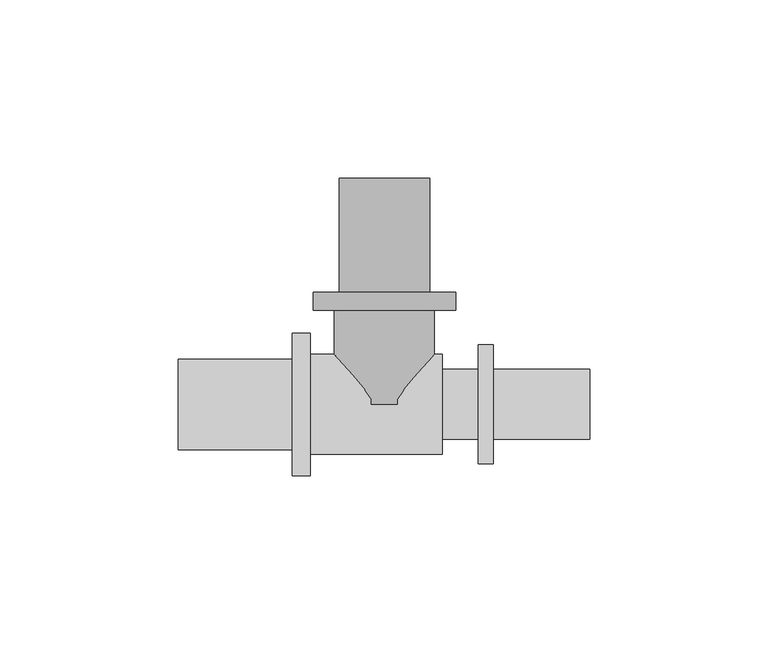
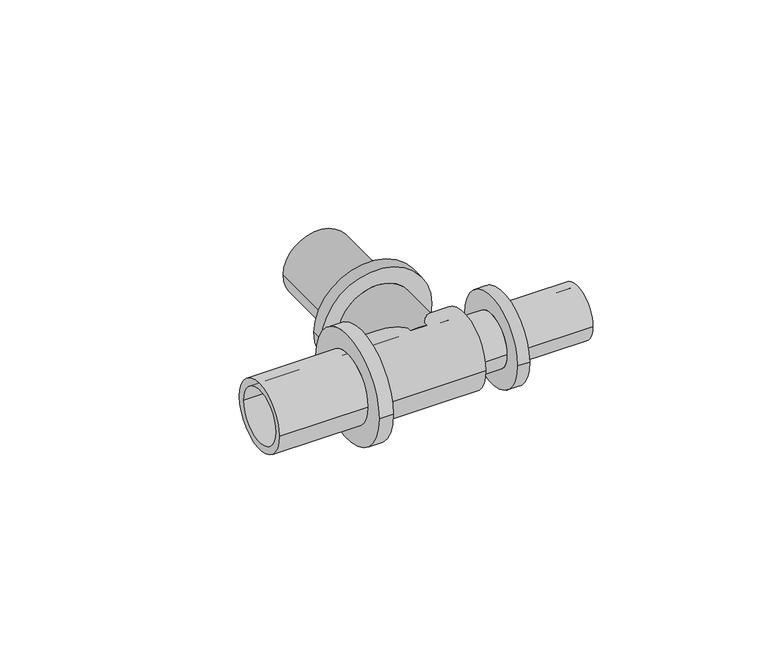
"""IFC4 building model written with IfcOpenShell, lengths in millimetres: pipe fitting geometry, RAUTITAN_T-piece_LX : RTI LX T DN."""

from ifc_helpers import new_model, si_unit, frame, origin, place, context, project, spatial, polyline, circle_curve, source, transform, mapped, element, save
from ifc_brep_helpers import plane_surface, cylinder_surface, revolved_surface, advanced_brep


def pipe_fitting_ff378167(model_context):
    return source(origin(), model_context, "Body", "AdvancedBrep", [
        advanced_brep(
        [(-14.0, 26.4, 0.0), (14.0, 26.4, 0.0), (14.0, 0.0, 0.0), (-14.0, 0.0, 0.0), (-20.0, 31.4, 0.0), (20.0, 31.4, 0.0), (20.0, 26.4, 0.0), (-20.0, 26.4, 0.0), (-12.7, 63.4, 0.0), (12.7, 63.4, 0.0), (12.7, 31.4, 0.0), (-12.7, 31.4, 0.0), (-10.0, 0.0, 0.0), (10.0, 0.0, 0.0), (10.0, 63.4, 0.0), (-10.0, 63.4, 0.0)],
        [
            (0, 1, circle_curve(frame((0.0, 26.4, 0.0), z_axis=(0.0, -1.0, 0.0), x_axis=(1.0, 0.0, 0.0)), 14.0)),
            (1, 2),
            (2, 3, circle_curve(frame((0.0, 0.0, 0.0), z_axis=(0.0, 1.0, 0.0), x_axis=(1.0, 0.0, 0.0)), 14.0)),
            (3, 0),
            (4, 5, circle_curve(frame((0.0, 31.4, 0.0), z_axis=(0.0, -1.0, 0.0), x_axis=(1.0, 0.0, 0.0)), 20.0)),
            (5, 6),
            (6, 7, circle_curve(frame((0.0, 26.4, 0.0), z_axis=(0.0, 1.0, 0.0), x_axis=(1.0, 0.0, 0.0)), 20.0)),
            (7, 4),
            (8, 9, circle_curve(frame((0.0, 63.4, 0.0), z_axis=(0.0, -1.0, 0.0), x_axis=(1.0, 0.0, 0.0)), 12.7)),
            (9, 10),
            (10, 11, circle_curve(frame((0.0, 31.4, 0.0), z_axis=(0.0, 1.0, 0.0), x_axis=(1.0, 0.0, 0.0)), 12.7)),
            (11, 8),
            (12, 13, circle_curve(frame((0.0, 0.0, 0.0), z_axis=(0.0, -1.0, 0.0), x_axis=(1.0, 0.0, 0.0)), 10.0)),
            (13, 14),
            (14, 15, circle_curve(frame((0.0, 63.4, 0.0), z_axis=(0.0, 1.0, 0.0), x_axis=(1.0, 0.0, 0.0)), 10.0)),
            (15, 12),
            (1, 0, circle_curve(frame((0.0, 26.4, 0.0), z_axis=(0.0, -1.0, 0.0), x_axis=(-1.0, 0.0, 0.0)), 14.0)),
            (3, 2, circle_curve(frame((0.0, 0.0, 0.0), z_axis=(0.0, 1.0, 0.0), x_axis=(-1.0, 0.0, 0.0)), 14.0)),
            (6, 7, circle_curve(frame((0.0, 26.4, 0.0), z_axis=(0.0, -1.0, 0.0), x_axis=(-1.0, 0.0, 0.0)), 20.0)),
            (5, 4, circle_curve(frame((0.0, 31.4, 0.0), z_axis=(0.0, -1.0, 0.0), x_axis=(-1.0, 0.0, 0.0)), 20.0)),
            (10, 11, circle_curve(frame((0.0, 31.4, 0.0), z_axis=(0.0, -1.0, 0.0), x_axis=(-1.0, 0.0, 0.0)), 12.7)),
            (9, 8, circle_curve(frame((0.0, 63.4, 0.0), z_axis=(0.0, -1.0, 0.0), x_axis=(-1.0, 0.0, 0.0)), 12.7)),
            (14, 15, circle_curve(frame((0.0, 63.4, 0.0), z_axis=(0.0, -1.0, 0.0), x_axis=(-1.0, 0.0, 0.0)), 10.0)),
            (13, 12, circle_curve(frame((0.0, 0.0, 0.0), z_axis=(0.0, -1.0, 0.0), x_axis=(-1.0, 0.0, 0.0)), 10.0)),
        ],
        [
            cylinder_surface(frame((0.0, 0.0, 0.0), z_axis=(0.0, 1.0, 0.0), x_axis=(1.0, 0.0, 0.0)), 14.0),
            cylinder_surface(frame((0.0, 0.0, 0.0), z_axis=(0.0, 1.0, 0.0), x_axis=(1.0, 0.0, 0.0)), 20.0),
            cylinder_surface(frame((0.0, 0.0, 0.0), z_axis=(0.0, 1.0, 0.0), x_axis=(1.0, 0.0, 0.0)), 12.7),
            revolved_surface(polyline([(10.0, 63.4, 0.0), (10.0, 0.0, 0.0)]), (0.0, 0.0, 0.0), (0.0, 1.0, 0.0)),
            cylinder_surface(frame((0.0, 0.0, 0.0), z_axis=(0.0, 1.0, 0.0), x_axis=(-1.0, 0.0, 0.0)), 14.0),
            plane_surface(frame((0.0, 26.4, 0.0), z_axis=(0.0, -1.0, 0.0), x_axis=(-1.0, 0.0, 0.0))),
            cylinder_surface(frame((0.0, 0.0, 0.0), z_axis=(0.0, 1.0, 0.0), x_axis=(-1.0, 0.0, 0.0)), 20.0),
            plane_surface(frame((0.0, 31.4, 0.0), z_axis=(0.0, 1.0, 0.0), x_axis=(-1.0, 0.0, 0.0))),
            cylinder_surface(frame((0.0, 0.0, 0.0), z_axis=(0.0, 1.0, 0.0), x_axis=(-1.0, 0.0, 0.0)), 12.7),
            plane_surface(frame((0.0, 63.4, 0.0), z_axis=(0.0, 1.0, 0.0), x_axis=(-1.0, 0.0, 0.0))),
            revolved_surface(polyline([(-10.0, 63.4, 0.0), (-10.0, 0.0, 0.0)]), (0.0, 0.0, 0.0), (0.0, 1.0, 0.0)),
            plane_surface(frame((0.0, 0.0, 0.0), z_axis=(0.0, -1.0, 0.0), x_axis=(-1.0, 0.0, 0.0))),
        ],
        [
            (0, [[1, 2, 3, 4]]),
            (1, [[5, 6, 7, 8]]),
            (2, [[9, 10, 11, 12]]),
            (3, [[13, 14, 15, 16]]),
            (4, [[17, -4, 18, -2]]),
            (5, [[19, -7], [-17, -1]]),
            (6, [[20, -8, -19, -6]]),
            (7, [[-20, -5], [21, -11]]),
            (8, [[22, -12, -21, -10]]),
            (9, [[-22, -9], [23, -15]]),
            (10, [[24, -16, -23, -14]]),
            (11, [[-18, -3], [-24, -13]]),
        ],
    ),
        advanced_brep(
        [(-57.8, 10.0, 0.0), (-57.8, -10.0, 0.0), (14.0, -10.0, 0.0), (14.0, 10.0, 0.0), (16.3, 14.0, 0.0), (16.3, -14.0, 0.0), (-20.8, -14.0, 0.0), (-20.8, 14.0, 0.0), (-20.8, 20.0, 0.0), (-20.8, -20.0, 0.0), (-25.8, -20.0, 0.0), (-25.8, 20.0, 0.0), (-25.8, 12.7, 0.0), (-25.8, -12.7, 0.0), (-57.8, -12.7, 0.0), (-57.8, 12.7, 0.0), (14.0, 7.5, 0.0), (14.0, -7.5, 0.0), (57.6, -7.5, 0.0), (57.6, 7.5, 0.0), (57.6, 9.8, 0.0), (57.6, -9.8, 0.0), (30.6, -9.8, 0.0), (30.6, 9.8, 0.0), (30.6, 16.7, 0.0), (30.6, -16.7, 0.0), (26.4, -16.7, 0.0), (26.4, 16.7, 0.0), (26.4, 9.8, 0.0), (26.4, -9.8, 0.0), (16.3, -9.8, 0.0), (16.3, 9.8, 0.0)],
        [
            (0, 1, circle_curve(frame((-57.8, 0.0, 0.0), z_axis=(-1.0, 0.0, 0.0), x_axis=(0.0, -1.0, 0.0)), 10.0)),
            (1, 2),
            (2, 3, circle_curve(frame((14.0, 0.0, 0.0), z_axis=(1.0, 0.0, 0.0), x_axis=(0.0, -1.0, 0.0)), 10.0)),
            (3, 0),
            (4, 5, circle_curve(frame((16.3, 0.0, 0.0), z_axis=(-1.0, 0.0, 0.0), x_axis=(0.0, -1.0, 0.0)), 14.0)),
            (5, 6),
            (6, 7, circle_curve(frame((-20.8, 0.0, 0.0), z_axis=(1.0, 0.0, 0.0), x_axis=(0.0, -1.0, 0.0)), 14.0)),
            (7, 4),
            (1, 0, circle_curve(frame((-57.8, 0.0, 0.0), z_axis=(-1.0, 0.0, 0.0), x_axis=(0.0, 1.0, 0.0)), 10.0)),
            (3, 2, circle_curve(frame((14.0, 0.0, 0.0), z_axis=(1.0, 0.0, 0.0), x_axis=(0.0, 1.0, 0.0)), 10.0)),
            (5, 4, circle_curve(frame((16.3, 0.0, 0.0), z_axis=(-1.0, 0.0, 0.0), x_axis=(0.0, 1.0, 0.0)), 14.0)),
            (7, 6, circle_curve(frame((-20.8, 0.0, 0.0), z_axis=(1.0, 0.0, 0.0), x_axis=(0.0, 1.0, 0.0)), 14.0)),
            (8, 9, circle_curve(frame((-20.8, 0.0, 0.0), z_axis=(-1.0, 0.0, 0.0), x_axis=(0.0, -1.0, 0.0)), 20.0)),
            (9, 10),
            (10, 11, circle_curve(frame((-25.8, 0.0, 0.0), z_axis=(1.0, 0.0, 0.0), x_axis=(0.0, -1.0, 0.0)), 20.0)),
            (11, 8),
            (12, 13, circle_curve(frame((-25.8, 0.0, 0.0), z_axis=(-1.0, 0.0, 0.0), x_axis=(0.0, -1.0, 0.0)), 12.7)),
            (13, 14),
            (14, 15, circle_curve(frame((-57.8, 0.0, 0.0), z_axis=(1.0, 0.0, 0.0), x_axis=(0.0, -1.0, 0.0)), 12.7)),
            (15, 12),
            (8, 9, circle_curve(frame((-20.8, 0.0, 0.0), z_axis=(1.0, 0.0, 0.0), x_axis=(0.0, 1.0, 0.0)), 20.0)),
            (11, 10, circle_curve(frame((-25.8, 0.0, 0.0), z_axis=(1.0, 0.0, 0.0), x_axis=(0.0, 1.0, 0.0)), 20.0)),
            (12, 13, circle_curve(frame((-25.8, 0.0, 0.0), z_axis=(1.0, 0.0, 0.0), x_axis=(0.0, 1.0, 0.0)), 12.7)),
            (15, 14, circle_curve(frame((-57.8, 0.0, 0.0), z_axis=(1.0, 0.0, 0.0), x_axis=(0.0, 1.0, 0.0)), 12.7)),
            (16, 17, circle_curve(frame((14.0, 0.0, 0.0), z_axis=(-1.0, 0.0, 0.0), x_axis=(0.0, -1.0, 0.0)), 7.5)),
            (17, 18),
            (18, 19, circle_curve(frame((57.6, 0.0, 0.0), z_axis=(1.0, 0.0, 0.0), x_axis=(0.0, -1.0, 0.0)), 7.5)),
            (19, 16),
            (20, 21, circle_curve(frame((57.6, 0.0, 0.0), z_axis=(-1.0, 0.0, 0.0), x_axis=(0.0, -1.0, 0.0)), 9.8)),
            (21, 22),
            (22, 23, circle_curve(frame((30.6, 0.0, 0.0), z_axis=(1.0, 0.0, 0.0), x_axis=(0.0, -1.0, 0.0)), 9.8)),
            (23, 20),
            (24, 25, circle_curve(frame((30.6, 0.0, 0.0), z_axis=(-1.0, 0.0, 0.0), x_axis=(0.0, -1.0, 0.0)), 16.7)),
            (25, 26),
            (26, 27, circle_curve(frame((26.4, 0.0, 0.0), z_axis=(1.0, 0.0, 0.0), x_axis=(0.0, -1.0, 0.0)), 16.7)),
            (27, 24),
            (28, 29, circle_curve(frame((26.4, 0.0, 0.0), z_axis=(-1.0, 0.0, 0.0), x_axis=(0.0, -1.0, 0.0)), 9.8)),
            (29, 30),
            (30, 31, circle_curve(frame((16.3, 0.0, 0.0), z_axis=(1.0, 0.0, 0.0), x_axis=(0.0, -1.0, 0.0)), 9.8)),
            (31, 28),
            (16, 17, circle_curve(frame((14.0, 0.0, 0.0), z_axis=(1.0, 0.0, 0.0), x_axis=(0.0, 1.0, 0.0)), 7.5)),
            (19, 18, circle_curve(frame((57.6, 0.0, 0.0), z_axis=(1.0, 0.0, 0.0), x_axis=(0.0, 1.0, 0.0)), 7.5)),
            (20, 21, circle_curve(frame((57.6, 0.0, 0.0), z_axis=(1.0, 0.0, 0.0), x_axis=(0.0, 1.0, 0.0)), 9.8)),
            (23, 22, circle_curve(frame((30.6, 0.0, 0.0), z_axis=(1.0, 0.0, 0.0), x_axis=(0.0, 1.0, 0.0)), 9.8)),
            (24, 25, circle_curve(frame((30.6, 0.0, 0.0), z_axis=(1.0, 0.0, 0.0), x_axis=(0.0, 1.0, 0.0)), 16.7)),
            (27, 26, circle_curve(frame((26.4, 0.0, 0.0), z_axis=(1.0, 0.0, 0.0), x_axis=(0.0, 1.0, 0.0)), 16.7)),
            (28, 29, circle_curve(frame((26.4, 0.0, 0.0), z_axis=(1.0, 0.0, 0.0), x_axis=(0.0, 1.0, 0.0)), 9.8)),
            (31, 30, circle_curve(frame((16.3, 0.0, 0.0), z_axis=(1.0, 0.0, 0.0), x_axis=(0.0, 1.0, 0.0)), 9.8)),
        ],
        [
            revolved_surface(polyline([(14.0, -10.0, 0.0), (-57.8, -10.0, 0.0)]), (0.0, 0.0, 0.0), (1.0, 0.0, 0.0)),
            cylinder_surface(frame((0.0, 0.0, 0.0), z_axis=(1.0, 0.0, 0.0), x_axis=(0.0, -1.0, 0.0)), 14.0),
            revolved_surface(polyline([(14.0, 10.0, 0.0), (-57.8, 10.0, 0.0)]), (0.0, 0.0, 0.0), (1.0, 0.0, 0.0)),
            cylinder_surface(frame((0.0, 0.0, 0.0), z_axis=(1.0, 0.0, 0.0), x_axis=(0.0, 1.0, 0.0)), 14.0),
            cylinder_surface(frame((0.0, 0.0, 0.0), z_axis=(1.0, 0.0, 0.0), x_axis=(0.0, -1.0, 0.0)), 20.0),
            cylinder_surface(frame((0.0, 0.0, 0.0), z_axis=(1.0, 0.0, 0.0), x_axis=(0.0, -1.0, 0.0)), 12.7),
            plane_surface(frame((-20.8, 0.0, 0.0), z_axis=(1.0, 0.0, 0.0), x_axis=(0.0, 1.0, 0.0))),
            cylinder_surface(frame((0.0, 0.0, 0.0), z_axis=(1.0, 0.0, 0.0), x_axis=(0.0, 1.0, 0.0)), 20.0),
            plane_surface(frame((-25.8, 0.0, 0.0), z_axis=(-1.0, 0.0, 0.0), x_axis=(0.0, 1.0, 0.0))),
            cylinder_surface(frame((0.0, 0.0, 0.0), z_axis=(1.0, 0.0, 0.0), x_axis=(0.0, 1.0, 0.0)), 12.7),
            plane_surface(frame((-57.8, 0.0, 0.0), z_axis=(-1.0, 0.0, 0.0), x_axis=(0.0, 1.0, 0.0))),
            revolved_surface(polyline([(57.6, -7.5, 0.0), (14.0, -7.5, 0.0)]), (0.0, 0.0, 0.0), (1.0, 0.0, 0.0)),
            cylinder_surface(frame((0.0, 0.0, 0.0), z_axis=(1.0, 0.0, 0.0), x_axis=(0.0, -1.0, 0.0)), 9.8),
            cylinder_surface(frame((0.0, 0.0, 0.0), z_axis=(1.0, 0.0, 0.0), x_axis=(0.0, -1.0, 0.0)), 16.7),
            plane_surface(frame((14.0, 0.0, 0.0), z_axis=(-1.0, 0.0, 0.0), x_axis=(0.0, 1.0, 0.0))),
            revolved_surface(polyline([(57.6, 7.5, 0.0), (14.0, 7.5, 0.0)]), (0.0, 0.0, 0.0), (1.0, 0.0, 0.0)),
            plane_surface(frame((57.6, 0.0, 0.0), z_axis=(1.0, 0.0, 0.0), x_axis=(0.0, 1.0, 0.0))),
            cylinder_surface(frame((0.0, 0.0, 0.0), z_axis=(1.0, 0.0, 0.0), x_axis=(0.0, 1.0, 0.0)), 9.8),
            plane_surface(frame((30.6, 0.0, 0.0), z_axis=(1.0, 0.0, 0.0), x_axis=(0.0, 1.0, 0.0))),
            cylinder_surface(frame((0.0, 0.0, 0.0), z_axis=(1.0, 0.0, 0.0), x_axis=(0.0, 1.0, 0.0)), 16.7),
            plane_surface(frame((26.4, 0.0, 0.0), z_axis=(-1.0, 0.0, 0.0), x_axis=(0.0, 1.0, 0.0))),
            plane_surface(frame((16.3, 0.0, 0.0), z_axis=(1.0, 0.0, 0.0), x_axis=(0.0, 1.0, 0.0))),
        ],
        [
            (0, [[1, 2, 3, 4]]),
            (1, [[5, 6, 7, 8]]),
            (2, [[9, -4, 10, -2]]),
            (3, [[11, -8, 12, -6]]),
            (4, [[13, 14, 15, 16]]),
            (5, [[17, 18, 19, 20]]),
            (6, [[21, -13], [-12, -7]]),
            (7, [[-21, -16, 22, -14]]),
            (8, [[-22, -15], [23, -17]]),
            (9, [[-23, -20, 24, -18]]),
            (10, [[-24, -19], [-9, -1]]),
            (11, [[25, 26, 27, 28]]),
            (12, [[29, 30, 31, 32]]),
            (13, [[33, 34, 35, 36]]),
            (12, [[37, 38, 39, 40]]),
            (14, [[-10, -3], [41, -25]]),
            (15, [[-41, -28, 42, -26]]),
            (16, [[43, -29], [-42, -27]]),
            (17, [[-43, -32, 44, -30]]),
            (18, [[45, -33], [-44, -31]]),
            (19, [[-45, -36, 46, -34]]),
            (20, [[-46, -35], [47, -37]]),
            (17, [[-47, -40, 48, -38]]),
            (21, [[-11, -5], [-48, -39]]),
        ],
    ),
    ])


if __name__ == "__main__":
    model = new_model("IFC4")
    model_context = context("Model", 3, world=origin())
    ifc_project = project(units=[si_unit("LENGTHUNIT", "METRE", prefix="MILLI")], contexts=[model_context])
    site = spatial("IfcSite", under=ifc_project)
    building = spatial("IfcBuilding", under=site)
    placement = place(None, origin())
    pipe_fitting_shape = pipe_fitting_ff378167(model_context)
    element("IfcPipeFitting", 1, ObjectType="RAUTITAN_T-piece_LX : RTI LX T DN", at=placement, inside=building, context=model_context, shape_type="MappedRepresentation", body=[
        mapped(pipe_fitting_shape, transform((0.0, 0.0, 0.0), x_axis=(1.0, 0.0, 0.0), y_axis=(0.0, 1.0, 0.0), z_axis=(0.0, 0.0, 1.0))),
    ])
    save(model, "model.ifc")
